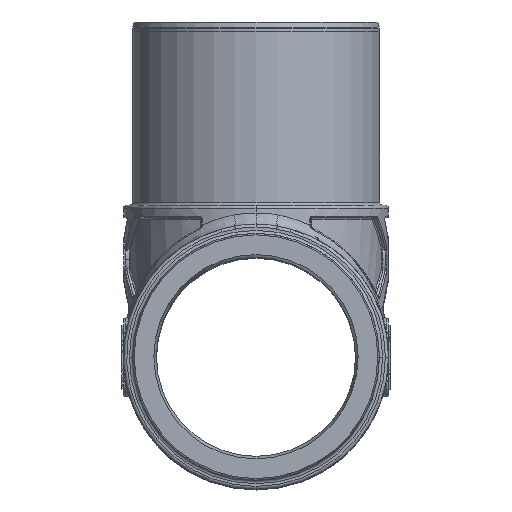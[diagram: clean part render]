
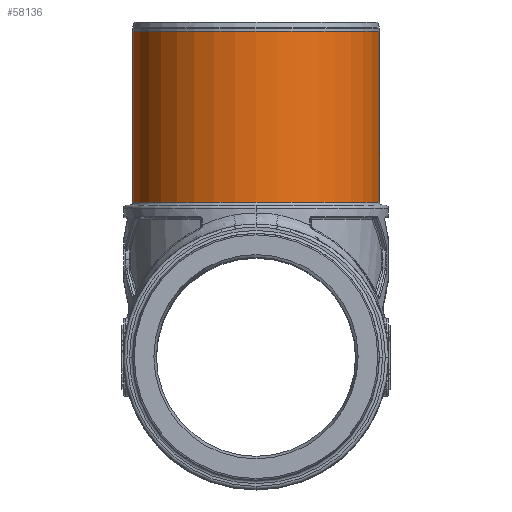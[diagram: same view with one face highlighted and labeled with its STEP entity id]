
A CAD part, top view. The second image highlights one B-rep face of the part: STEP entity #58136.
In plain terms, the highlighted cylindrical face has radius 31.7 mm (diameter 63.4 mm), a partial arc.
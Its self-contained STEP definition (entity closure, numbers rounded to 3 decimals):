
#7500 = EDGE_LOOP ( 'NONE', ( #56965, #56966, #56968, #56970 ) ) ;
#9501 = VERTEX_POINT ( 'NONE', #10947 ) ;
#9513 = VERTEX_POINT ( 'NONE', #10959 ) ;
#9540 = VERTEX_POINT ( 'NONE', #10986 ) ;
#9543 = VERTEX_POINT ( 'NONE', #10989 ) ;
#10680 = CIRCLE ( 'NONE', #59718, 31.7 ) ;
#10947 = CARTESIAN_POINT ( 'NONE',  ( 31.7, 83.651, 0. ) ) ;
#10959 = CARTESIAN_POINT ( 'NONE',  ( -31.7, 83.651, 0. ) ) ;
#10986 = CARTESIAN_POINT ( 'NONE',  ( -31.7, 39.8, 0. ) ) ;
#10989 = CARTESIAN_POINT ( 'NONE',  ( 31.7, 39.8, 0. ) ) ;
#16581 = CARTESIAN_POINT ( 'NONE',  ( 0., 83.651, 0. ) ) ;
#16582 = DIRECTION ( 'NONE',  ( 0., -1., 0. ) ) ;
#16583 = DIRECTION ( 'NONE',  ( 1., 0., 0. ) ) ;
#21518 = CIRCLE ( 'NONE', #24617, 31.7 ) ;
#21556 = LINE ( 'NONE', #30233, #21561 ) ;
#21561 = VECTOR ( 'NONE', #30223, 1000. ) ;
#21563 = LINE ( 'NONE', #30215, #21566 ) ;
#21566 = VECTOR ( 'NONE', #30231, 1000. ) ;
#24617 = AXIS2_PLACEMENT_3D ( 'NONE', #30093, #30095, #30096 ) ;
#30093 = CARTESIAN_POINT ( 'NONE',  ( 0., 39.8, 0. ) ) ;
#30095 = DIRECTION ( 'NONE',  ( 0., 1., 0. ) ) ;
#30096 = DIRECTION ( 'NONE',  ( 1., 0., 0. ) ) ;
#30215 = CARTESIAN_POINT ( 'NONE',  ( -31.7, 86., 0. ) ) ;
#30223 = DIRECTION ( 'NONE',  ( 0., -1., 0. ) ) ;
#30231 = DIRECTION ( 'NONE',  ( 0., -1., 0. ) ) ;
#30233 = CARTESIAN_POINT ( 'NONE',  ( 31.7, 86., 0. ) ) ;
#42124 = AXIS2_PLACEMENT_3D ( 'NONE', #51322, #51318, #51320 ) ;
#44411 = FACE_OUTER_BOUND ( 'NONE', #7500, .T. ) ;
#44417 = CYLINDRICAL_SURFACE ( 'NONE', #42124, 31.7 ) ;
#46233 = EDGE_CURVE ( 'NONE', #9501, #9513, #10680, .T. ) ;
#51318 = DIRECTION ( 'NONE',  ( 0., -1., 0. ) ) ;
#51320 = DIRECTION ( 'NONE',  ( -1., 0., 0. ) ) ;
#51322 = CARTESIAN_POINT ( 'NONE',  ( 0., 86., 0. ) ) ;
#54253 = EDGE_CURVE ( 'NONE', #9540, #9543, #21518, .T. ) ;
#54273 = EDGE_CURVE ( 'NONE', #9501, #9543, #21556, .T. ) ;
#54275 = EDGE_CURVE ( 'NONE', #9513, #9540, #21563, .T. ) ;
#56965 = ORIENTED_EDGE ( 'NONE', *, *, #54273, .F. ) ;
#56966 = ORIENTED_EDGE ( 'NONE', *, *, #46233, .T. ) ;
#56968 = ORIENTED_EDGE ( 'NONE', *, *, #54275, .T. ) ;
#56970 = ORIENTED_EDGE ( 'NONE', *, *, #54253, .T. ) ;
#58136 = ADVANCED_FACE ( 'NONE', ( #44411 ), #44417, .T. ) ;
#59718 = AXIS2_PLACEMENT_3D ( 'NONE', #16581, #16582, #16583 ) ;
